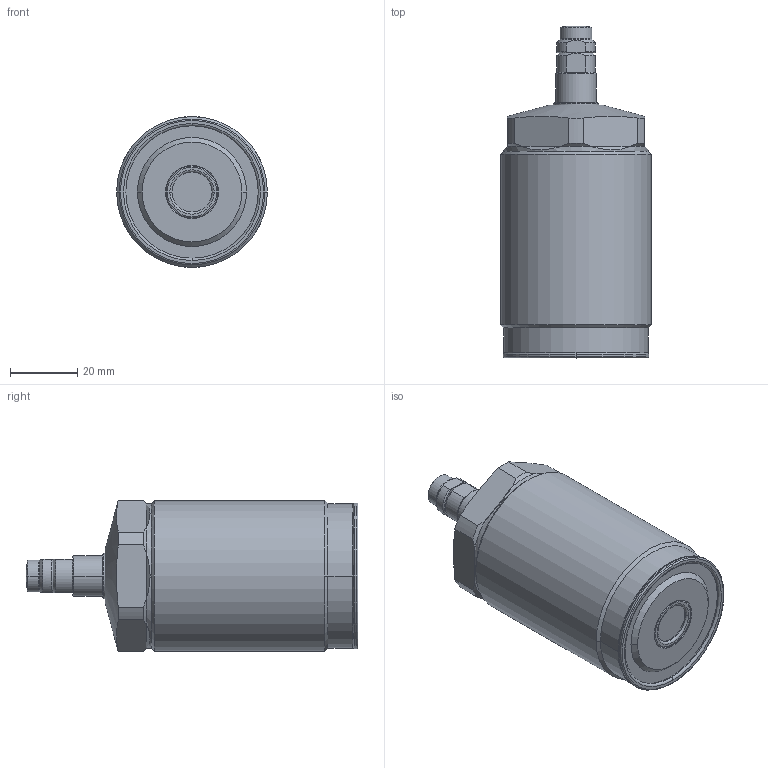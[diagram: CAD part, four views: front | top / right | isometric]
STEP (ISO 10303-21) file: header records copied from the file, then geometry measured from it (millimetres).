
FILE_DESCRIPTION(/* description */ (''),/* implementation_level */ '2;1');
FILE_NAME(/* name */ 'TNE45-M.stp',/* time_stamp */ '2025-01-11T08:18:24+08:00',/* author */ (''),/* organization */ (''),/* preprocessor_version */ 'ST-DEVELOPER v16.7',/* originating_system */ 'SIEMENS PLM Software NX 12.0',/* authorisation */ '');
FILE_SCHEMA (('AUTOMOTIVE_DESIGN { 1 0 10303 214 3 1 1 1 }'));
Length unit declared in the file: millimetre
Products named in the file (11): XLD-M8SP_pad; XLD-M8SP_pin; XLD-M8_Oring; XLD-M8SP_contactbolt; XLD-M8_Oring93; TNE45-M0001; TNE45-M0295; TNE45-M0496; XLDM8_-M; TNE45-M0397; TNE45_stp
Assembly tree (10 placements, depth 3):
  TNE45_stp
    TNE45-M0496
    TNE45-M0295
    TNE45-M0397
      XLD-M8_Oring93
    TNE45-M0001
    XLDM8_-M
      XLD-M8SP_contactbolt
      XLD-M8_Oring
      XLD-M8SP_pin
      XLD-M8SP_pad
Bounding box: 45 x 99 x 45 mm (x, y, z)
Volume: 115197.9 mm3; surface area: 16244.3 mm2
Topology: 8 solids, 8 shells, 198 faces, 440 edges, 264 vertices
Faces by surface type: cylinder 62, torus 49, plane 44, cone 37, sphere 6
Full cylindrical faces by diameter (mm): 43.2 x1, 45 x1
Entity records: 6131 total; most frequent: CARTESIAN_POINT 1367, DIRECTION 1067, ORIENTED_EDGE 872, AXIS2_PLACEMENT_3D 474, EDGE_CURVE 436, VERTEX_POINT 264, CIRCLE 259, EDGE_LOOP 224
